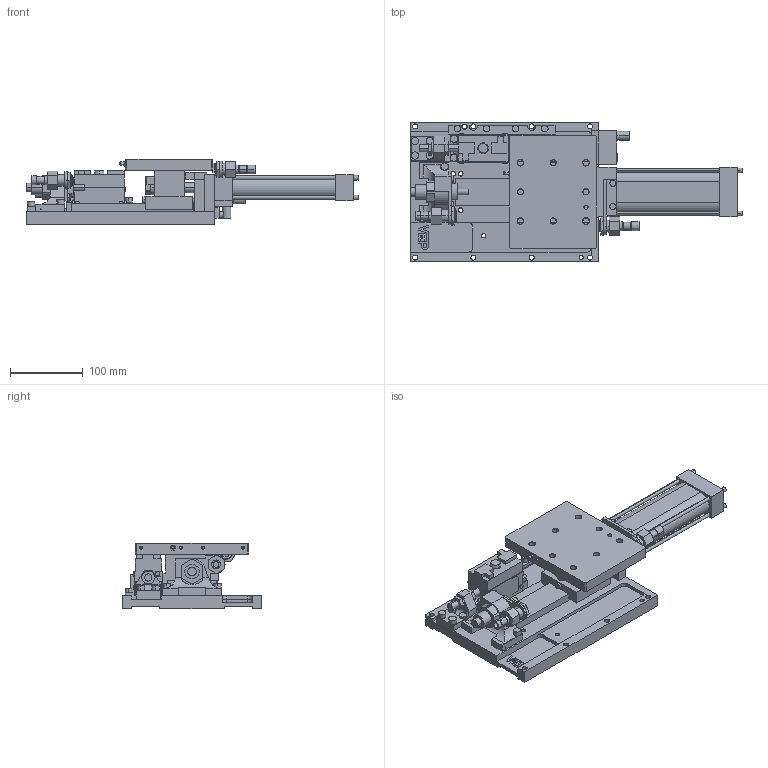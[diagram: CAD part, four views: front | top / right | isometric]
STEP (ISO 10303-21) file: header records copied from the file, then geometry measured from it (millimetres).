
FILE_DESCRIPTION (( 'STEP AP214' ), '1' );
FILE_NAME ('slg40_100_XX_V_X_H.STEP', '2021-02-04T11:51:18', ( '' ), ( '' ), 'SwSTEP 2.0', 'SolidWorks 2021', '' );
FILE_SCHEMA (( 'AUTOMOTIVE_DESIGN' ));
Length unit declared in the file: millimetre
Products named in the file (9): piastra_superiore_slg40; deceleratore_slg40; base_slg40_100_V; otturatore_dx_slg40; staffa_deceleratore_slg40; dado_deceleratore_slg40; slg40_100_XX_V_X_H; Sensore_slg40; staffa_ferma_otturatore_slg40
Assembly tree (8 placements, depth 2):
  slg40_100_XX_V_X_H
    base_slg40_100_V
    piastra_superiore_slg40
    staffa_deceleratore_slg40
    deceleratore_slg40
    staffa_ferma_otturatore_slg40
    otturatore_dx_slg40
    dado_deceleratore_slg40
    Sensore_slg40
Bounding box: 455.6 x 192 x 90 mm (x, y, z)
Volume: 1967471.5 mm3; surface area: 360341.4 mm2
Topology: 13 solids, 14 shells, 969 faces, 2450 edges, 1539 vertices
Faces by surface type: plane 495, cylinder 334, cone 132, torus 8
Entity records: 32460 total; most frequent: CARTESIAN_POINT 5413, DIRECTION 5117, ORIENTED_EDGE 4800, EDGE_CURVE 2400, AXIS2_PLACEMENT_3D 1759, LINE 1599, VECTOR 1599, VERTEX_POINT 1539
